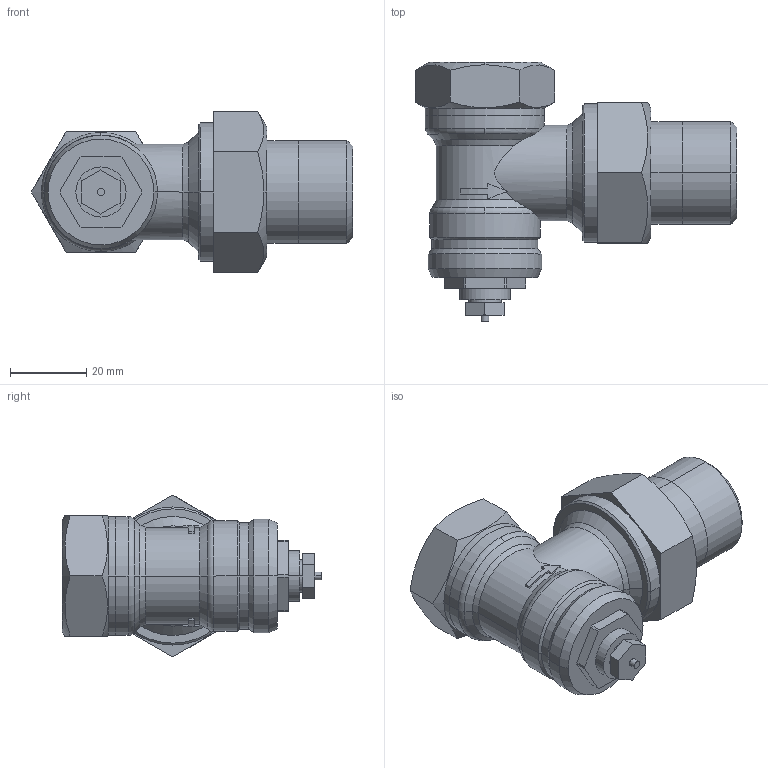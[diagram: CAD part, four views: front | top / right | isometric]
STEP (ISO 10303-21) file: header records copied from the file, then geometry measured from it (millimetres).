
FILE_DESCRIPTION((''),'2;1');
FILE_NAME('000022.stp','2006-09-29T17:14:33',(''),(''),'Mechanical Desktop 2006','Mechanical Desktop 2006',', , ');
FILE_SCHEMA(('AUTOMOTIVE_DESIGN { 1 2 10303 214 0 1 1 1 }'));
Length unit declared in the file: millimetre
Products named in the file (1): Product
Bounding box: 84.24 x 68 x 42.43 mm (x, y, z)
Volume: 63331.2 mm3; surface area: 18794.9 mm2
Topology: 11 solids, 11 shells, 132 faces, 304 edges, 195 vertices
Faces by surface type: plane 57, cylinder 34, cone 26, bspline 9, torus 6
Entity records: 3900 total; most frequent: CARTESIAN_POINT 888, DIRECTION 620, ORIENTED_EDGE 608, EDGE_CURVE 304, AXIS2_PLACEMENT_3D 234, VERTEX_POINT 195, VECTOR 152, LINE 152
